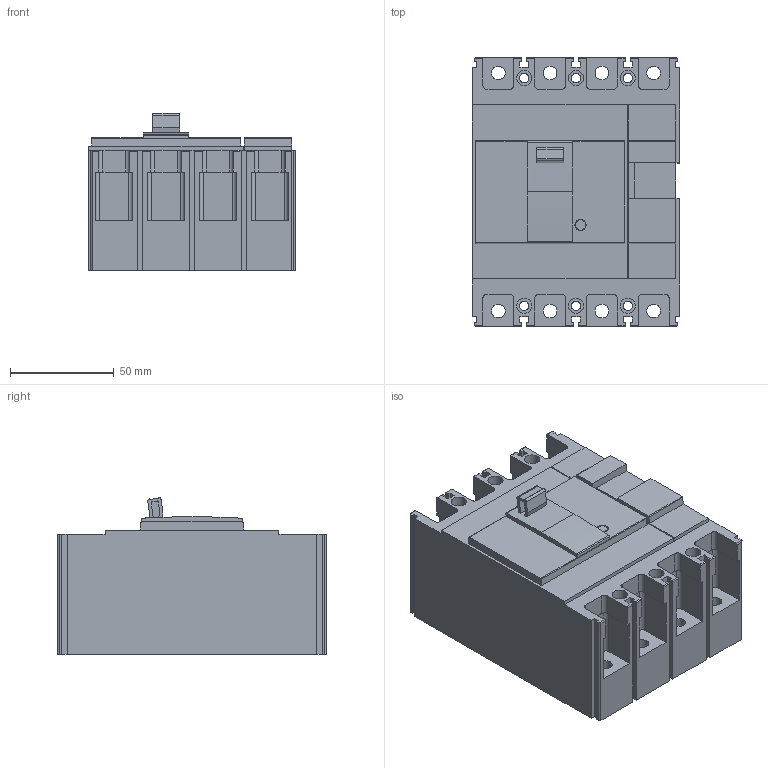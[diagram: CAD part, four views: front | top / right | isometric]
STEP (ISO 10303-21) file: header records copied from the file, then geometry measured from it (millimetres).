
FILE_DESCRIPTION (( 'STEP AP203' ), '1' );
FILE_NAME ('New N Type 4P.STEP', '2018-01-04T01:14:00', ( '' ), ( '' ), 'SwSTEP 2.0', 'SolidWorks 2015', '' );
FILE_SCHEMA (( 'CONFIG_CONTROL_DESIGN' ));
Length unit declared in the file: millimetre
Products named in the file (1): New N Type 4P
Bounding box: 100 x 130 x 75.76 mm (x, y, z)
Volume: 693902.2 mm3; surface area: 79419.2 mm2
Topology: 1 solids, 1 shells, 311 faces, 903 edges, 604 vertices
Faces by surface type: plane 195, cylinder 116
Entity records: 10462 total; most frequent: CARTESIAN_POINT 1881, ORIENTED_EDGE 1806, DIRECTION 1755, EDGE_CURVE 903, VECTOR 663, LINE 663, VERTEX_POINT 604, AXIS2_PLACEMENT_3D 546
